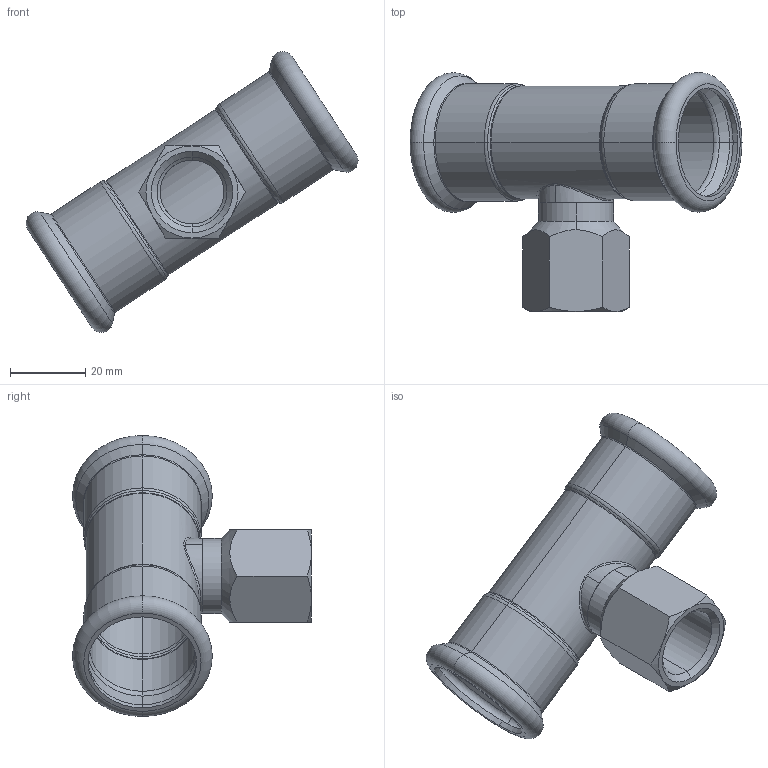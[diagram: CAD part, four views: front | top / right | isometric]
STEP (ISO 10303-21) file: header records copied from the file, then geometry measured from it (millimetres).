
FILE_DESCRIPTION (( 'STEP AP203' ), '1' );
FILE_NAME ('GDA5246.STEP', '2019-01-14T00:53:07', ( '' ), ( '' ), 'SwSTEP 2.0', 'SolidWorks 2015', '' );
FILE_SCHEMA (( 'CONFIG_CONTROL_DESIGN' ));
Length unit declared in the file: millimetre
Products named in the file (3): T(R)-¢ñ-28¡Á18''; ITC-I-03-18℅?; GDA5246
Assembly tree (2 placements, depth 2):
  GDA5246
    ITC-I-03-18℅?
    T(R)-¢ñ-28¡Á18''
Bounding box: 88.35 x 63.6 x 74.78 mm (x, y, z)
Volume: 18761.3 mm3; surface area: 21381.8 mm2
Topology: 2 solids, 2 shells, 103 faces, 218 edges, 122 vertices
Faces by surface type: torus 32, cone 28, cylinder 26, plane 13, bspline 4
Entity records: 4153 total; most frequent: CARTESIAN_POINT 1620, DIRECTION 526, ORIENTED_EDGE 436, AXIS2_PLACEMENT_3D 236, EDGE_CURVE 218, CIRCLE 132, VERTEX_POINT 122, EDGE_LOOP 112
